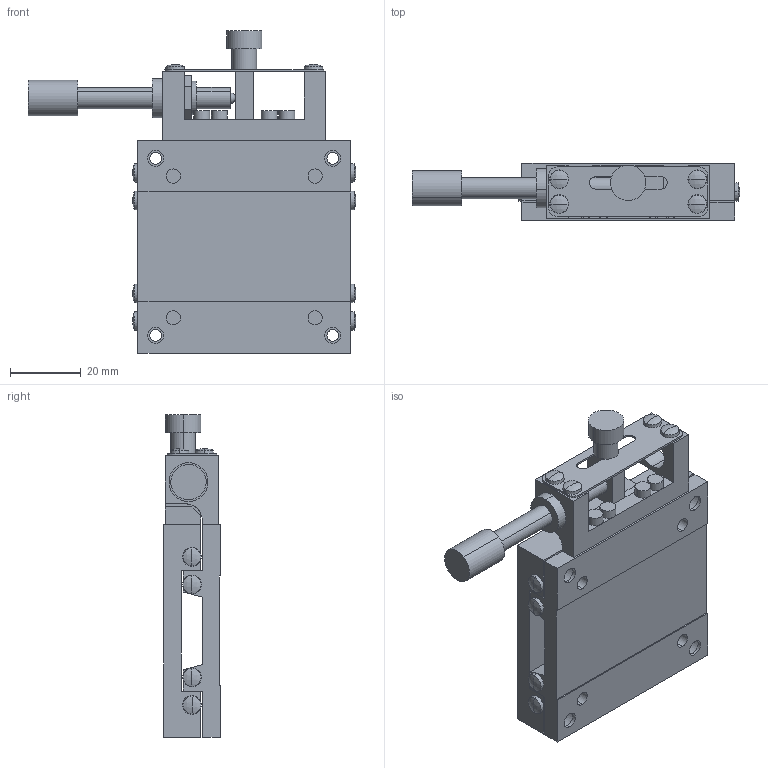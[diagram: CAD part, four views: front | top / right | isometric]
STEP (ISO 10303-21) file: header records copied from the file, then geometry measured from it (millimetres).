
FILE_DESCRIPTION (( 'STEP AP214' ), '1' );
FILE_NAME ('LS‐6041‐SR6‐2.STEP', '2007-08-27T08:19:01', ( '' ), ( '' ), 'SwSTEP 2.0', 'SolidWorks 2006303', '' );
FILE_SCHEMA (( 'AUTOMOTIVE_DESIGN' ));
Length unit declared in the file: millimetre
Products named in the file (3): LS‐6041‐SR6‐2; LS60R620－1_ﾃﾞﾌｫﾙﾄ; LS60R620－2_ﾃﾞﾌｫﾙﾄ
Assembly tree (2 placements, depth 2):
  LS‐6041‐SR6‐2
    LS60R620－1_ﾃﾞﾌｫﾙﾄ
    LS60R620－2_ﾃﾞﾌｫﾙﾄ
Bounding box: 92.5 x 16 x 91 mm (x, y, z)
Volume: 55897.5 mm3; surface area: 26988.7 mm2
Topology: 3 solids, 3 shells, 228 faces, 575 edges, 369 vertices
Faces by surface type: plane 99, cylinder 79, sphere 26, cone 24
Entity records: 7032 total; most frequent: DIRECTION 1297, CARTESIAN_POINT 1171, ORIENTED_EDGE 1142, EDGE_CURVE 571, AXIS2_PLACEMENT_3D 493, VERTEX_POINT 367, VECTOR 311, LINE 311
